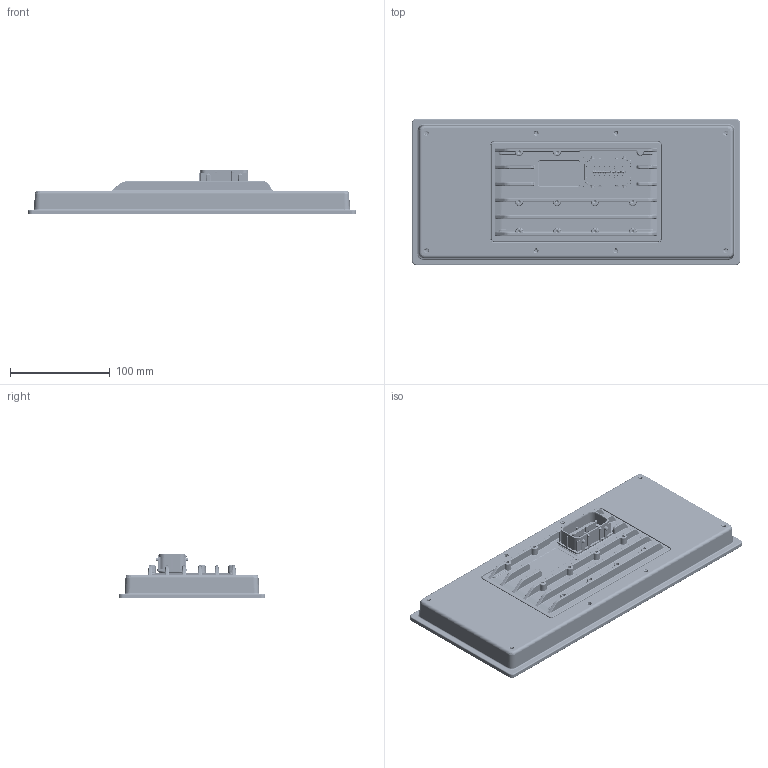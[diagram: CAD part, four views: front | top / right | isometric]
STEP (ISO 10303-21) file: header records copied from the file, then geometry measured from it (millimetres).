
FILE_DESCRIPTION(/* description */ (''),/* implementation_level */ '2;1');
FILE_NAME(/* name */ 'C:\Vault_Workfolder\Designs\A-MD5\Marknad\IQAN MD5-12_assembly.stp',/* time_stamp */ '2024-03-11T15:01:25+01:00',/* author */ ('FW62974B'),/* organization */ (''),/* preprocessor_version */ 'ST-DEVELOPER v18',/* originating_system */ 'Autodesk Inventor 2020',/* authorisation */ '');
FILE_SCHEMA (('AUTOMOTIVE_DESIGN { 1 0 10303 214 3 1 1 }'));
Products named in the file (1): IQAN MD5-12_assembly
Bounding box: 329.1 x 147.1 x 44.82 mm (x, y, z)
Volume: 665024.5 mm3; surface area: 499048.3 mm2
Topology: 17 solids, 20 shells, 13832 faces, 35143 edges, 20841 vertices
Faces by surface type: cylinder 4593, plane 4171, bspline 3966, cone 584, torus 328, sphere 190
Full cylindrical faces by diameter (mm): 1 x2, 2 x1, 2.007 x3, 2.01 x1, 2.459 x4, 2.8 x1, 3 x6, 3.2 x4, 3.242 x10, 3.5 x4, 5 x2, 5.6 x5, 8 x5, 10 x1
Entity records: 646199 total; most frequent: CARTESIAN_POINT 319165, ORIENTED_EDGE 68712, DIRECTION 60351, EDGE_CURVE 34356, AXIS2_PLACEMENT_3D 22138, VERTEX_POINT 20843, LINE 16075, VECTOR 16075
